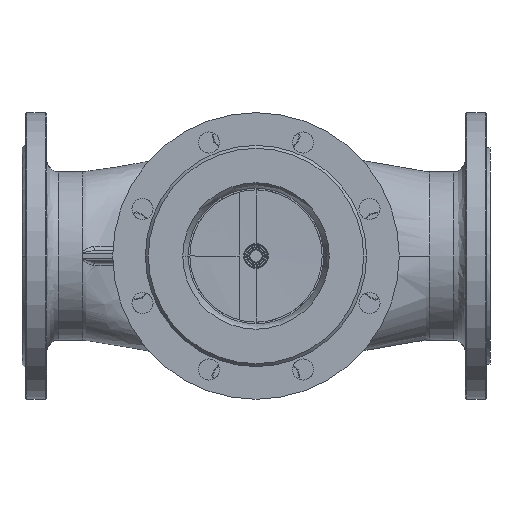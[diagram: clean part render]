
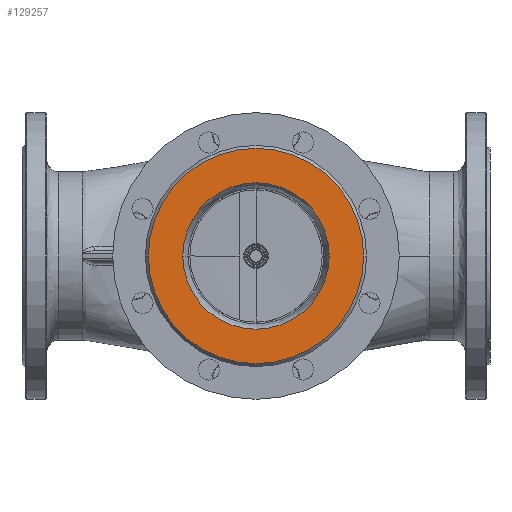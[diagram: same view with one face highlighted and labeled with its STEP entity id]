
A CAD part, front view. The second image highlights one B-rep face of the part: STEP entity #129257.
In plain terms, the highlighted planar face has unit normal (0, -1, 0).
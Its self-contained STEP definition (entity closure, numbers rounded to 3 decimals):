
#670 = FACE_BOUND ( 'NONE', #384825, .T. ) ;
#19650 = VERTEX_POINT ( 'NONE', #277110 ) ;
#67223 = EDGE_CURVE ( 'NONE', #19650, #380674, #300766, .T. ) ;
#68911 = DIRECTION ( 'NONE',  ( 0., 1., 0. ) ) ;
#75425 = DIRECTION ( 'NONE',  ( 0., 1., 0. ) ) ;
#81160 = AXIS2_PLACEMENT_3D ( 'NONE', #153558, #254033, #287567 ) ;
#93962 = ORIENTED_EDGE ( 'NONE', *, *, #207753, .T. ) ;
#104650 = DIRECTION ( 'NONE',  ( -1., 0., 0. ) ) ;
#104763 = AXIS2_PLACEMENT_3D ( 'NONE', #129019, #292202, #428988 ) ;
#129019 = CARTESIAN_POINT ( 'NONE',  ( 0., 0., 0. ) ) ;
#129257 = ADVANCED_FACE ( 'NONE', ( #287111, #670 ), #182765, .T. ) ;
#132027 = CARTESIAN_POINT ( 'NONE',  ( 62.561, 0., 0. ) ) ;
#135968 = CARTESIAN_POINT ( 'NONE',  ( 0., 0., 0. ) ) ;
#136492 = VERTEX_POINT ( 'NONE', #132027 ) ;
#143891 = CARTESIAN_POINT ( 'NONE',  ( 0., 0., 0. ) ) ;
#153558 = CARTESIAN_POINT ( 'NONE',  ( 0., 0., 0. ) ) ;
#160454 = CARTESIAN_POINT ( 'NONE',  ( 0., 0., 0. ) ) ;
#172589 = VERTEX_POINT ( 'NONE', #268739 ) ;
#182765 = PLANE ( 'NONE',  #81160 ) ;
#201498 = DIRECTION ( 'NONE',  ( -1., 0., 0. ) ) ;
#205417 = CARTESIAN_POINT ( 'NONE',  ( 92., 0., 0. ) ) ;
#207753 = EDGE_CURVE ( 'NONE', #172589, #136492, #415094, .T. ) ;
#221718 = ORIENTED_EDGE ( 'NONE', *, *, #417535, .F. ) ;
#252706 = EDGE_LOOP ( 'NONE', ( #360945, #221718 ) ) ;
#254033 = DIRECTION ( 'NONE',  ( 0., -1., 0. ) ) ;
#256027 = AXIS2_PLACEMENT_3D ( 'NONE', #143891, #75425, #104650 ) ;
#265201 = DIRECTION ( 'NONE',  ( 0., 1., 0. ) ) ;
#268739 = CARTESIAN_POINT ( 'NONE',  ( -62.561, 0., 0. ) ) ;
#277110 = CARTESIAN_POINT ( 'NONE',  ( -92., 0., 0. ) ) ;
#281030 = AXIS2_PLACEMENT_3D ( 'NONE', #160454, #265201, #362833 ) ;
#287111 = FACE_OUTER_BOUND ( 'NONE', #252706, .T. ) ;
#287567 = DIRECTION ( 'NONE',  ( 1., 0., 0. ) ) ;
#292202 = DIRECTION ( 'NONE',  ( 0., 1., 0. ) ) ;
#295106 = AXIS2_PLACEMENT_3D ( 'NONE', #135968, #68911, #201498 ) ;
#300766 = CIRCLE ( 'NONE', #256027, 92. ) ;
#322302 = CIRCLE ( 'NONE', #281030, 92. ) ;
#337772 = CIRCLE ( 'NONE', #295106, 62.561 ) ;
#360945 = ORIENTED_EDGE ( 'NONE', *, *, #67223, .F. ) ;
#362833 = DIRECTION ( 'NONE',  ( -1., 0., 0. ) ) ;
#366492 = ORIENTED_EDGE ( 'NONE', *, *, #423327, .T. ) ;
#380674 = VERTEX_POINT ( 'NONE', #205417 ) ;
#384825 = EDGE_LOOP ( 'NONE', ( #93962, #366492 ) ) ;
#415094 = CIRCLE ( 'NONE', #104763, 62.561 ) ;
#417535 = EDGE_CURVE ( 'NONE', #380674, #19650, #322302, .T. ) ;
#423327 = EDGE_CURVE ( 'NONE', #136492, #172589, #337772, .T. ) ;
#428988 = DIRECTION ( 'NONE',  ( -1., 0., 0. ) ) ;
